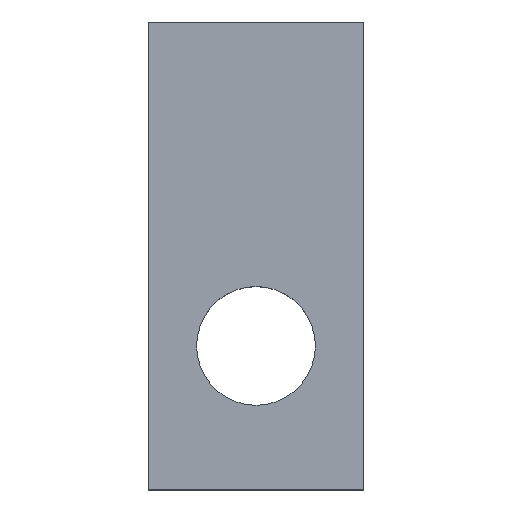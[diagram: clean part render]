
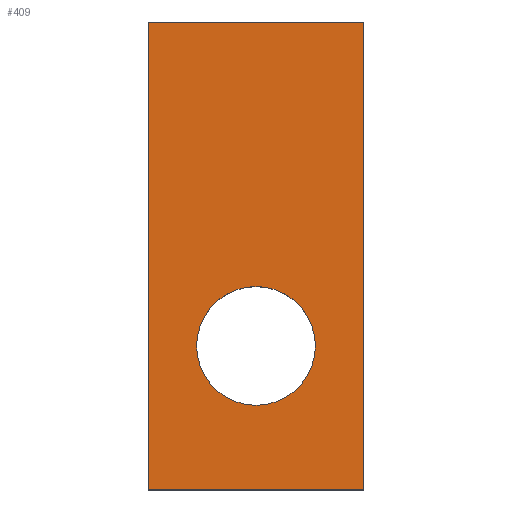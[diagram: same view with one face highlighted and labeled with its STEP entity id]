
A CAD part, top view. The second image highlights one B-rep face of the part: STEP entity #409.
In plain terms, the highlighted planar face has unit normal (0, 0, 1).
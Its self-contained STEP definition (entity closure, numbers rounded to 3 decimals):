
#7 = DIRECTION ( 'NONE',  ( 1., 0., 0. ) ) ;
#11 = CIRCLE ( 'NONE', #359, 1.65 ) ;
#15 = EDGE_CURVE ( 'NONE', #17, #401, #114, .T. ) ;
#16 = PLANE ( 'NONE',  #278 ) ;
#17 = VERTEX_POINT ( 'NONE', #215 ) ;
#18 = FACE_OUTER_BOUND ( 'NONE', #34, .T. ) ;
#25 = ORIENTED_EDGE ( 'NONE', *, *, #127, .T. ) ;
#28 = CARTESIAN_POINT ( 'NONE',  ( 0., 0., 2. ) ) ;
#34 = EDGE_LOOP ( 'NONE', ( #72, #137, #25, #416 ) ) ;
#38 = ORIENTED_EDGE ( 'NONE', *, *, #138, .F. ) ;
#40 = VERTEX_POINT ( 'NONE', #190 ) ;
#69 = LINE ( 'NONE', #233, #404 ) ;
#72 = ORIENTED_EDGE ( 'NONE', *, *, #15, .T. ) ;
#79 = VERTEX_POINT ( 'NONE', #330 ) ;
#84 = DIRECTION ( 'NONE',  ( 0., 1., 0. ) ) ;
#89 = AXIS2_PLACEMENT_3D ( 'NONE', #355, #257, #225 ) ;
#94 = CARTESIAN_POINT ( 'NONE',  ( 1.65, 0., 2. ) ) ;
#111 = DIRECTION ( 'NONE',  ( 0., 0., -1. ) ) ;
#114 = LINE ( 'NONE', #251, #180 ) ;
#127 = EDGE_CURVE ( 'NONE', #40, #189, #227, .T. ) ;
#137 = ORIENTED_EDGE ( 'NONE', *, *, #247, .F. ) ;
#138 = EDGE_CURVE ( 'NONE', #146, #79, #11, .T. ) ;
#142 = CIRCLE ( 'NONE', #89, 1.65 ) ;
#143 = CARTESIAN_POINT ( 'NONE',  ( 0., 0., 2. ) ) ;
#146 = VERTEX_POINT ( 'NONE', #94 ) ;
#159 = DIRECTION ( 'NONE',  ( 1., 0., 0. ) ) ;
#165 = EDGE_CURVE ( 'NONE', #79, #146, #142, .T. ) ;
#166 = VECTOR ( 'NONE', #338, 1000. ) ;
#178 = FACE_BOUND ( 'NONE', #336, .T. ) ;
#180 = VECTOR ( 'NONE', #84, 1000. ) ;
#184 = ORIENTED_EDGE ( 'NONE', *, *, #165, .F. ) ;
#189 = VERTEX_POINT ( 'NONE', #343 ) ;
#190 = CARTESIAN_POINT ( 'NONE',  ( -3., 9., 2. ) ) ;
#210 = CARTESIAN_POINT ( 'NONE',  ( 3., 9., 2. ) ) ;
#215 = CARTESIAN_POINT ( 'NONE',  ( 3., -4., 2. ) ) ;
#224 = VECTOR ( 'NONE', #230, 1000. ) ;
#225 = DIRECTION ( 'NONE',  ( 1., 0., 0. ) ) ;
#227 = LINE ( 'NONE', #296, #224 ) ;
#230 = DIRECTION ( 'NONE',  ( 0., -1., 0. ) ) ;
#233 = CARTESIAN_POINT ( 'NONE',  ( -3., -4., 2. ) ) ;
#241 = LINE ( 'NONE', #304, #166 ) ;
#247 = EDGE_CURVE ( 'NONE', #40, #401, #241, .T. ) ;
#248 = DIRECTION ( 'NONE',  ( -1., 0., 0. ) ) ;
#251 = CARTESIAN_POINT ( 'NONE',  ( 3., -4., 2. ) ) ;
#254 = EDGE_CURVE ( 'NONE', #189, #17, #69, .T. ) ;
#257 = DIRECTION ( 'NONE',  ( 0., 0., 1. ) ) ;
#278 = AXIS2_PLACEMENT_3D ( 'NONE', #143, #111, #248 ) ;
#296 = CARTESIAN_POINT ( 'NONE',  ( -3., -4., 2. ) ) ;
#304 = CARTESIAN_POINT ( 'NONE',  ( 3., 9., 2. ) ) ;
#330 = CARTESIAN_POINT ( 'NONE',  ( -1.65, 0., 2. ) ) ;
#336 = EDGE_LOOP ( 'NONE', ( #184, #38 ) ) ;
#338 = DIRECTION ( 'NONE',  ( 1., 0., 0. ) ) ;
#343 = CARTESIAN_POINT ( 'NONE',  ( -3., -4., 2. ) ) ;
#355 = CARTESIAN_POINT ( 'NONE',  ( 0., 0., 2. ) ) ;
#359 = AXIS2_PLACEMENT_3D ( 'NONE', #28, #390, #159 ) ;
#390 = DIRECTION ( 'NONE',  ( 0., 0., 1. ) ) ;
#401 = VERTEX_POINT ( 'NONE', #210 ) ;
#404 = VECTOR ( 'NONE', #7, 1000. ) ;
#409 = ADVANCED_FACE ( 'NONE', ( #18, #178 ), #16, .F. ) ;
#416 = ORIENTED_EDGE ( 'NONE', *, *, #254, .T. ) ;
